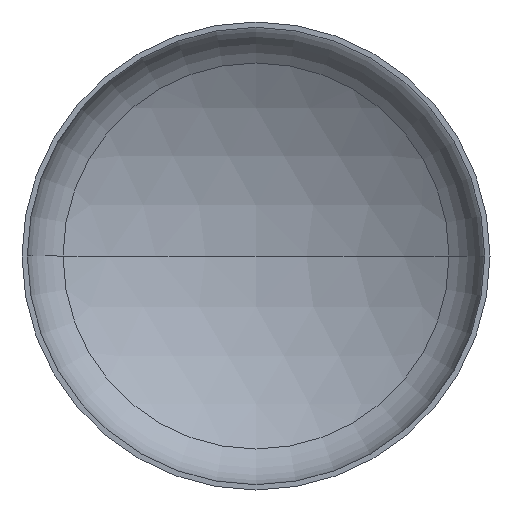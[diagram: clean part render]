
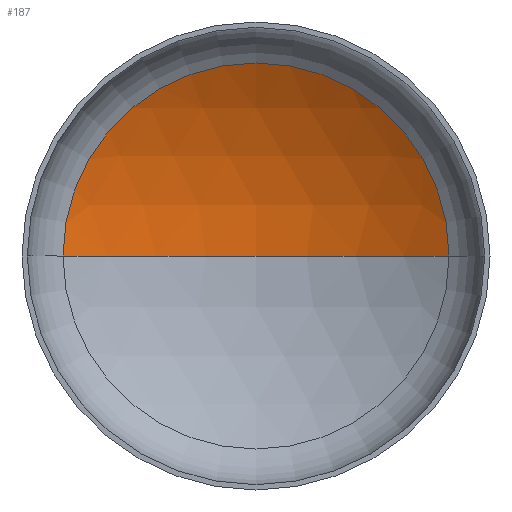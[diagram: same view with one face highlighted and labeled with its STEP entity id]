
A CAD part, front view. The second image highlights one B-rep face of the part: STEP entity #187.
In plain terms, the highlighted spherical face has radius 560 mm.
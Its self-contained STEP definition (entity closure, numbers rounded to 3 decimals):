
#2 = VERTEX_POINT ( 'NONE', #326 ) ;
#65 = ORIENTED_EDGE ( 'NONE', *, *, #175, .T. ) ;
#67 = VERTEX_POINT ( 'NONE', #314 ) ;
#73 = ORIENTED_EDGE ( 'NONE', *, *, #185, .F. ) ;
#81 = AXIS2_PLACEMENT_3D ( 'NONE', #228, #388, #116 ) ;
#93 = EDGE_LOOP ( 'NONE', ( #73, #229, #65 ) ) ;
#96 = AXIS2_PLACEMENT_3D ( 'NONE', #219, #123, #120 ) ;
#99 = AXIS2_PLACEMENT_3D ( 'NONE', #321, #318, #317 ) ;
#104 = CIRCLE ( 'NONE', #96, 560. ) ;
#105 = AXIS2_PLACEMENT_3D ( 'NONE', #245, #276, #284 ) ;
#116 = DIRECTION ( 'NONE',  ( -1., 0., 0. ) ) ;
#120 = DIRECTION ( 'NONE',  ( 1., 0., 0. ) ) ;
#123 = DIRECTION ( 'NONE',  ( 0., 0., 1. ) ) ;
#175 = EDGE_CURVE ( 'NONE', #2, #67, #387, .T. ) ;
#182 = EDGE_CURVE ( 'NONE', #363, #2, #261, .T. ) ;
#185 = EDGE_CURVE ( 'NONE', #363, #67, #104, .T. ) ;
#187 = ADVANCED_FACE ( 'NONE', ( #198 ), #322, .F. ) ;
#198 = FACE_OUTER_BOUND ( 'NONE', #93, .T. ) ;
#202 = CARTESIAN_POINT ( 'NONE',  ( 0., 199.415, 0. ) ) ;
#219 = CARTESIAN_POINT ( 'NONE',  ( 0., -360.585, 0. ) ) ;
#228 = CARTESIAN_POINT ( 'NONE',  ( 0., -360.585, 0. ) ) ;
#229 = ORIENTED_EDGE ( 'NONE', *, *, #182, .T. ) ;
#245 = CARTESIAN_POINT ( 'NONE',  ( 0., 119.254, 0. ) ) ;
#261 = CIRCLE ( 'NONE', #99, 560. ) ;
#276 = DIRECTION ( 'NONE',  ( 0., -1., 0. ) ) ;
#284 = DIRECTION ( 'NONE',  ( 1., 0., 0. ) ) ;
#314 = CARTESIAN_POINT ( 'NONE',  ( -288.711, 119.254, 0. ) ) ;
#317 = DIRECTION ( 'NONE',  ( -1., 0., 0. ) ) ;
#318 = DIRECTION ( 'NONE',  ( 0., 0., -1. ) ) ;
#321 = CARTESIAN_POINT ( 'NONE',  ( 0., -360.585, 0. ) ) ;
#322 = SPHERICAL_SURFACE ( 'NONE', #81, 560. ) ;
#326 = CARTESIAN_POINT ( 'NONE',  ( 288.711, 119.254, 0. ) ) ;
#363 = VERTEX_POINT ( 'NONE', #202 ) ;
#387 = CIRCLE ( 'NONE', #105, 288.711 ) ;
#388 = DIRECTION ( 'NONE',  ( 0., 0., -1. ) ) ;
